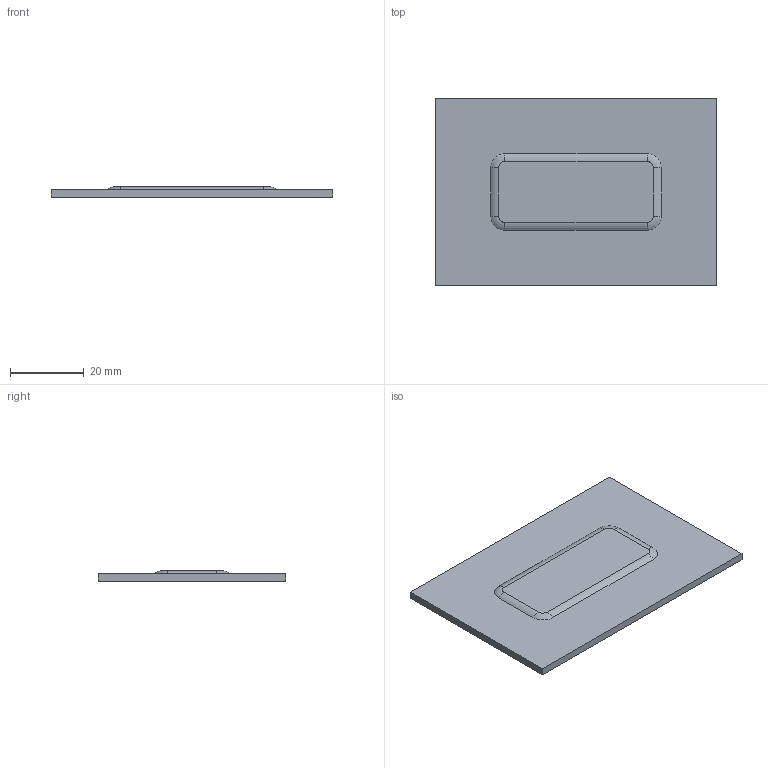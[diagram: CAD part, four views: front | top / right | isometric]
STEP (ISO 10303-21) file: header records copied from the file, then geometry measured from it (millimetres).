
FILE_DESCRIPTION((''),'1');
FILE_NAME('C:/Users/robertnolte/Desktop/407-6030-00 REV 04 EMBOSS.stp', '2017-12-20T23:04:36',(''), (''), 'KCM Version 1.1.2322.0', 'KeyCreator', '');
FILE_SCHEMA(('AUTOMOTIVE_DESIGN'));
Length unit declared in the file: inch
Bounding box: 76.2 x 50.8 x 2.79 mm (x, y, z)
Volume: 7880.6 mm3; surface area: 8294.1 mm2
Topology: 1 solids, 1 shells, 32 faces, 76 edges, 48 vertices
Faces by surface type: cylinder 12, bspline 12, plane 8
Entity records: 1517 total; most frequent: CARTESIAN_POINT 817, ORIENTED_EDGE 152, DIRECTION 122, EDGE_CURVE 76, VERTEX_POINT 48, AXIS2_PLACEMENT_3D 45, EDGE_LOOP 34, VECTOR 32
